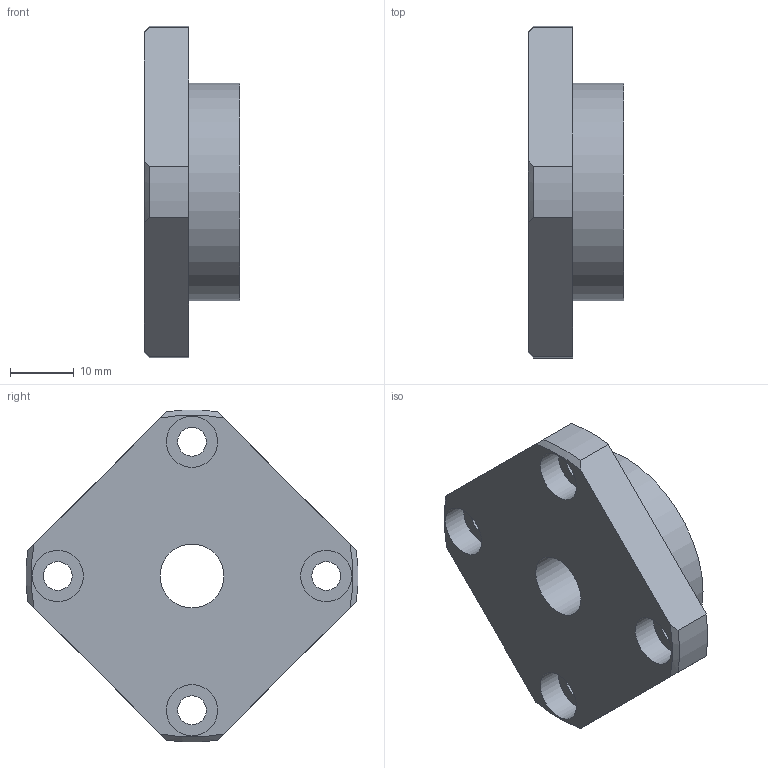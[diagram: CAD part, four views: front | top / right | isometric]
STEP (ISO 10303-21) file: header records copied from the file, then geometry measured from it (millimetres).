
FILE_DESCRIPTION(/* description */ (''),/* implementation_level */ '2;1');
FILE_NAME(/* name */ 'D:\Опора винта фланцевая FF 01.000\Модели\Опора фланцевая FF12 01.00.stp',/* time_stamp */ '2017-01-27T11:58:39+03:00',/* author */ ('t1'),/* organization */ ('TraceParts S.A.'),/* preprocessor_version */ 'ST-DEVELOPER v16.1',/* originating_system */ 'Autodesk Inventor 2016',/* authorisation */ '');
FILE_SCHEMA (('AUTOMOTIVE_DESIGN { 1 0 10303 214 3 1 1 }'));
Length unit declared in the file: millimetre
Products named in the file (1): Опора \X2\0444043B0430043D04460435
04320430044F\X0\ FF12 01.00
Bounding box: 15 x 51.93 x 51.93 mm (x, y, z)
Volume: 13566.7 mm3; surface area: 6481.7 mm2
Topology: 1 solids, 1 shells, 31 faces, 76 edges, 53 vertices
Faces by surface type: cylinder 15, plane 12, cone 4
Full cylindrical faces by diameter (mm): 4.5 x4, 8 x4, 10 x1, 25.5 x1, 34 x1
Entity records: 858 total; most frequent: CARTESIAN_POINT 152, DIRECTION 148, ORIENTED_EDGE 116, AXIS2_PLACEMENT_3D 66, EDGE_LOOP 58, EDGE_CURVE 58, VERTEX_POINT 46, CIRCLE 34
